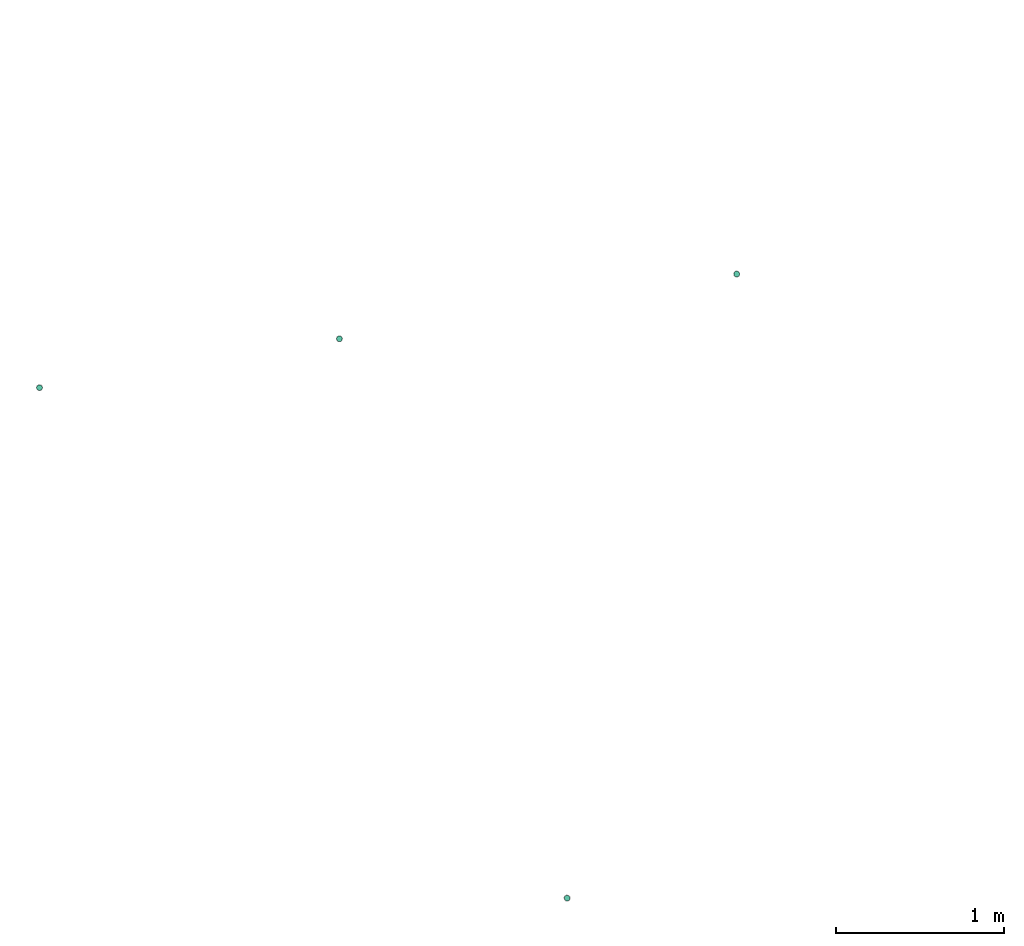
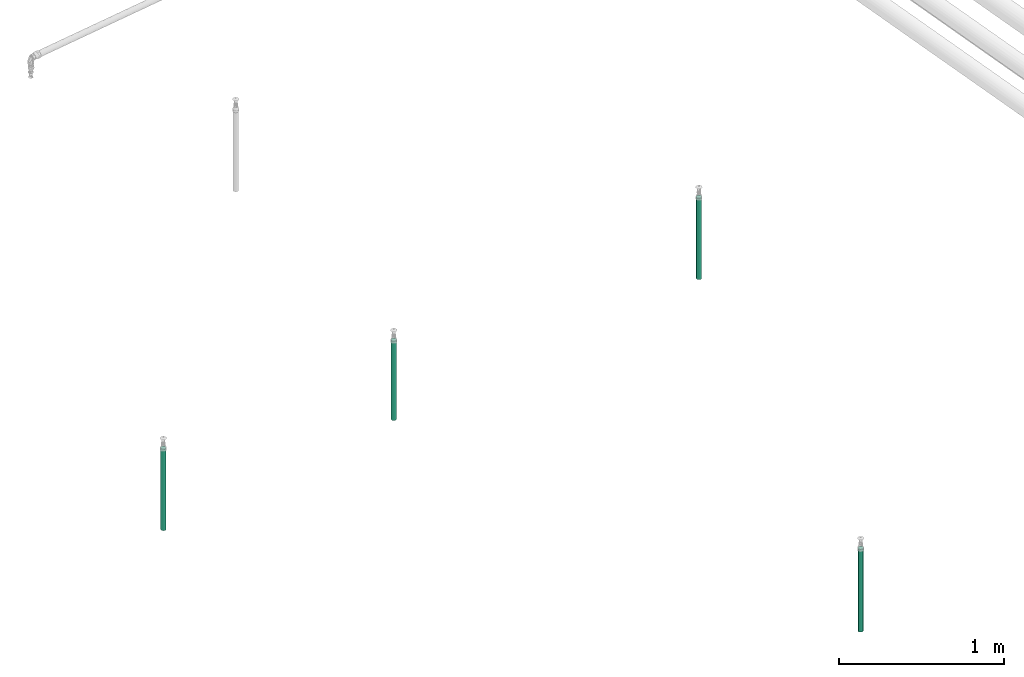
# One storey, part 18 of 46: 4 flow segments.
"""IFC2X3 building model written with IfcOpenShell, lengths in millimetres."""

from ifc_helpers import new_model, entity, si_unit, converted_unit, derived_unit, direction, frame, origin, origin_with_axes, origin_2d_with_axis, place, context, subcontext, project, spatial, circle, extrude, material, type_object, element, save


model = new_model("IFC2X3")

# Units and contexts
model_context = context("Model", 3, precision=0.01, world=origin(), true_north=direction((6.12323399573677e-17, 1.0)))
plan_context = context("Plan", 3, precision=1e-05, world=origin_with_axes())
body_context = subcontext(model_context, "Body", "Model", "MODEL_VIEW")
ifc_project = project(units=[converted_unit("PLANEANGLEUNIT", "DEGREE", entity("IfcPositiveLengthMeasure", 0.0174532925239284), si_unit("PLANEANGLEUNIT", "RADIAN"), dimensions=[0, 0, 0, 0, 0, 0, 0]), si_unit("AREAUNIT", "SQUARE_METRE"), si_unit("LENGTHUNIT", "METRE", prefix="MILLI"), si_unit("MASSUNIT", "GRAM", prefix="KILO"), si_unit("POWERUNIT", "WATT"), si_unit("PRESSUREUNIT", "PASCAL", prefix="KILO"), si_unit("FORCEUNIT", "NEWTON", prefix="KILO"), si_unit("ELECTRICVOLTAGEUNIT", "VOLT"), si_unit("ELECTRICCURRENTUNIT", "AMPERE"), si_unit("THERMODYNAMICTEMPERATUREUNIT", "DEGREE_CELSIUS"), si_unit("TIMEUNIT", "SECOND"), si_unit("VOLUMEUNIT", "CUBIC_METRE"), derived_unit("LINEARVELOCITYUNIT", [(si_unit("LENGTHUNIT", "METRE"), 1), (si_unit("TIMEUNIT", "SECOND"), -1)]), derived_unit("VOLUMETRICFLOWRATEUNIT", [(si_unit("VOLUMEUNIT", "CUBIC_METRE"), 1), (si_unit("TIMEUNIT", "SECOND"), -1)]), derived_unit("THERMALTRANSMITTANCEUNIT", [(si_unit("POWERUNIT", "WATT"), 1), (si_unit("THERMODYNAMICTEMPERATUREUNIT", "KELVIN"), -1), (si_unit("AREAUNIT", "SQUARE_METRE"), -1)]), derived_unit("SOUNDPRESSUREUNIT", [(si_unit("PRESSUREUNIT", "PASCAL"), 1)])], contexts=[model_context, plan_context])

# Site, building, storey
site_placement = place(None, frame((-3.09682673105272e-06, 1.93776733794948e-05, 0.0), z_axis=(0.0, 0.0, 1.0), x_axis=(-0.160806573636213, 0.986985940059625, 0.0)))
site = spatial("IfcSite", under=ifc_project, at=site_placement, Name="Default", CompositionType="ELEMENT")
building_placement = place(site_placement, frame((0.0, 0.0, 0.0), z_axis=(0.0, 0.0, 1.0), x_axis=(1.0, -2.77555756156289e-17, 0.0)))
building = spatial("IfcBuilding", under=site, at=building_placement, Name="Bygning (endres i Project Information)", CompositionType="ELEMENT")
storey_placement = place(building_placement, frame((0.0, 0.0, 51360.0000000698), z_axis=(0.0, 0.0, 1.0), x_axis=(1.0, -2.77555756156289e-17, 0.0)))
storey = spatial("IfcBuildingStorey", under=building, at=storey_placement, Name="H01-Nivå D+0,36", CompositionType="ELEMENT", Elevation=51360.0000000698)

# Flow segments
ifc_material = material(Name="3320.001")
pipe_segment_type = type_object("IfcPipeSegmentType", Name="Pipe Types:Stålrør sveist og gjenget", PredefinedType="NOTDEFINED", material=ifc_material)
flow_segment_1_placement = place(storey_placement, frame((0.0, 0.0, 0.0), z_axis=(0.0, 0.0, 1.0), x_axis=(1.0, -2.77555756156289e-17, 0.0)))
element("IfcFlowSegment", 1, at=flow_segment_1_placement, inside=storey, type_object=pipe_segment_type, Name="Pipe Types:Stålrør sveist og gjenget", ObjectType="Pipe Types:Stålrør sveist og gjenget", context=body_context, shape_type="SweptSolid", body=[
    extrude(circle(Radius=16.8500004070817, at=origin_2d_with_axis()), frame((998288.367643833, -344342.799796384, 3131.90156789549), z_axis=(0.0, 1.26826839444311e-06, 1.0), x_axis=(-1.0, 0.0, 0.0)), (0.0, 0.0, 1.0), 604.910557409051),
])
flow_segment_2_placement = place(storey_placement, frame((0.0, 0.0, 0.0), z_axis=(0.0, 0.0, 1.0), x_axis=(1.0, -2.77555756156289e-17, 0.0)))
element("IfcFlowSegment", 2, at=flow_segment_2_placement, inside=storey, type_object=pipe_segment_type, Name="Pipe Types:Stålrør sveist og gjenget", ObjectType="Pipe Types:Stålrør sveist og gjenget", context=body_context, shape_type="SweptSolid", body=[
    extrude(circle(Radius=16.8500004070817, at=origin_2d_with_axis()), frame((998288.367643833, -341949.811272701, 3148.26666850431)), (0.0, 0.0, 1.0), 588.54545680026),
])
flow_segment_3_placement = place(storey_placement, frame((0.0, 0.0, 0.0), z_axis=(0.0, 0.0, 1.0), x_axis=(1.0, -2.77555756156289e-17, 0.0)))
element("IfcFlowSegment", 3, at=flow_segment_3_placement, inside=storey, type_object=pipe_segment_type, Name="Pipe Types:Stålrør sveist og gjenget", ObjectType="Pipe Types:Stålrør sveist og gjenget", context=body_context, shape_type="SweptSolid", body=[
    extrude(circle(Radius=16.8500004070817, at=origin_2d_with_axis()), frame((998288.367643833, -340142.799796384, 3131.90156789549), z_axis=(0.0, 1.26826839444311e-06, 1.0), x_axis=(-1.0, 0.0, 0.0)), (0.0, 0.0, 1.0), 604.910557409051),
])
flow_segment_4_placement = place(storey_placement, frame((0.0, 0.0, 0.0), z_axis=(0.0, 0.0, 1.0), x_axis=(1.0, -2.77555756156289e-17, 0.0)))
element("IfcFlowSegment", 4, at=flow_segment_4_placement, inside=storey, type_object=pipe_segment_type, Name="Pipe Types:Stålrør sveist og gjenget", ObjectType="Pipe Types:Stålrør sveist og gjenget", context=body_context, shape_type="SweptSolid", body=[
    extrude(circle(Radius=16.8500004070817, at=origin_2d_with_axis()), frame((994788.367503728, -342750.811420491, 3121.75525997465)), (0.0, 0.0, 1.0), 615.056865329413),
])

save(model, "model.ifc")
